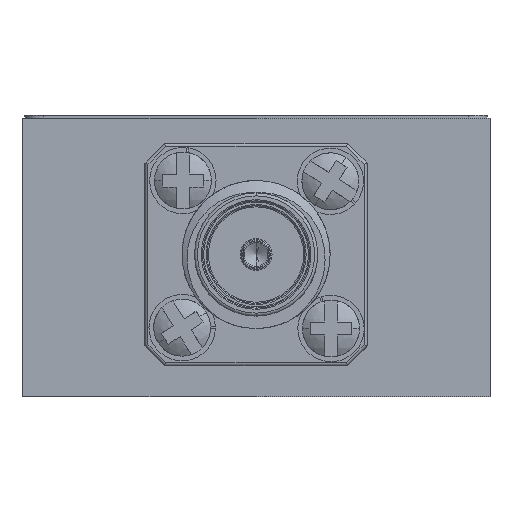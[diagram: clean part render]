
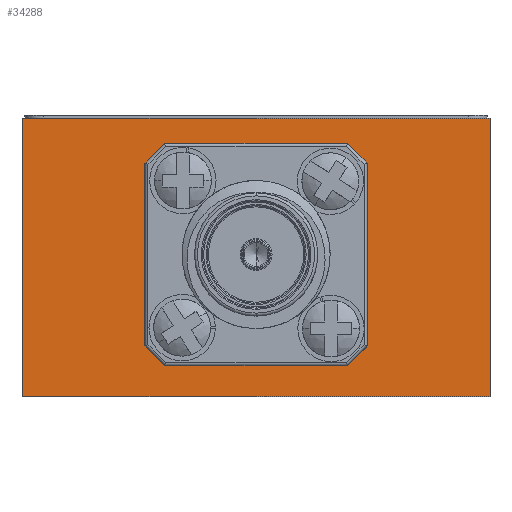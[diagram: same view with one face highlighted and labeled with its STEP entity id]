
A CAD part, left-side view. The second image highlights one B-rep face of the part: STEP entity #34288.
In plain terms, the highlighted planar face has unit normal (-1, 0, 0).
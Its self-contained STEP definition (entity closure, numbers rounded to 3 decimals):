
#1161 = VERTEX_POINT ( 'NONE', #15000 ) ;
#2895 = EDGE_CURVE ( 'NONE', #32585, #34796, #34081, .T. ) ;
#4671 = LINE ( 'NONE', #21012, #7114 ) ;
#5009 = CARTESIAN_POINT ( 'NONE',  ( -29.972, -10.033, -11.938 ) ) ;
#6824 = DIRECTION ( 'NONE',  ( 0., -1., 0. ) ) ;
#7114 = VECTOR ( 'NONE', #6824, 1000. ) ;
#7929 = EDGE_LOOP ( 'NONE', ( #19511, #17350, #20159, #14203 ) ) ;
#8980 = CARTESIAN_POINT ( 'NONE',  ( -29.972, -10.033, -11.938 ) ) ;
#9058 = CARTESIAN_POINT ( 'NONE',  ( -29.972, 10.033, -11.938 ) ) ;
#9148 = DIRECTION ( 'NONE',  ( 0., 0., 1. ) ) ;
#10017 = AXIS2_PLACEMENT_3D ( 'NONE', #8980, #19811, #9148 ) ;
#10515 = VERTEX_POINT ( 'NONE', #24420 ) ;
#14203 = ORIENTED_EDGE ( 'NONE', *, *, #29426, .T. ) ;
#15000 = CARTESIAN_POINT ( 'NONE',  ( -29.972, -10.033, -11.938 ) ) ;
#16344 = EDGE_CURVE ( 'NONE', #34796, #10515, #4671, .T. ) ;
#17317 = EDGE_CURVE ( 'NONE', #32585, #1161, #34141, .T. ) ;
#17350 = ORIENTED_EDGE ( 'NONE', *, *, #2895, .F. ) ;
#17624 = VECTOR ( 'NONE', #31083, 1000. ) ;
#19511 = ORIENTED_EDGE ( 'NONE', *, *, #16344, .F. ) ;
#19811 = DIRECTION ( 'NONE',  ( -1., 0., 0. ) ) ;
#20159 = ORIENTED_EDGE ( 'NONE', *, *, #17317, .T. ) ;
#20664 = LINE ( 'NONE', #20853, #23164 ) ;
#20853 = CARTESIAN_POINT ( 'NONE',  ( -29.972, -10.033, -11.938 ) ) ;
#21012 = CARTESIAN_POINT ( 'NONE',  ( -29.972, -10.033, 0. ) ) ;
#22467 = PLANE ( 'NONE',  #10017 ) ;
#23164 = VECTOR ( 'NONE', #29427, 1000. ) ;
#23918 = CARTESIAN_POINT ( 'NONE',  ( -29.972, 10.033, 0. ) ) ;
#24420 = CARTESIAN_POINT ( 'NONE',  ( -29.972, -10.033, 0. ) ) ;
#28210 = VECTOR ( 'NONE', #35059, 1000. ) ;
#29426 = EDGE_CURVE ( 'NONE', #1161, #10515, #20664, .T. ) ;
#29427 = DIRECTION ( 'NONE',  ( 0., 0., 1. ) ) ;
#31083 = DIRECTION ( 'NONE',  ( 0., 0., 1. ) ) ;
#32585 = VERTEX_POINT ( 'NONE', #32814 ) ;
#32814 = CARTESIAN_POINT ( 'NONE',  ( -29.972, 10.033, -11.938 ) ) ;
#33479 = FACE_OUTER_BOUND ( 'NONE', #7929, .T. ) ;
#34081 = LINE ( 'NONE', #9058, #17624 ) ;
#34141 = LINE ( 'NONE', #5009, #28210 ) ;
#34288 = ADVANCED_FACE ( 'NONE', ( #33479 ), #22467, .T. ) ;
#34796 = VERTEX_POINT ( 'NONE', #23918 ) ;
#35059 = DIRECTION ( 'NONE',  ( 0., -1., 0. ) ) ;
